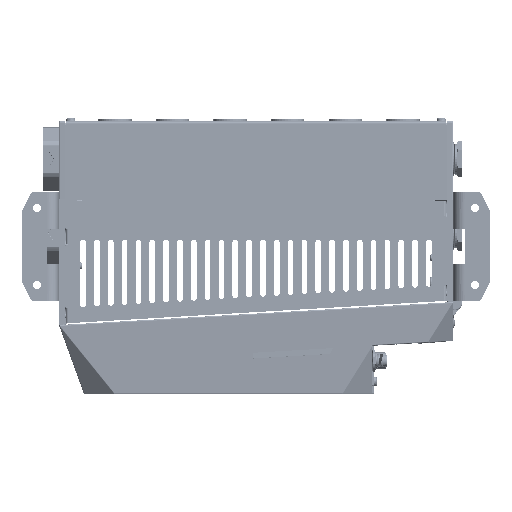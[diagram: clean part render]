
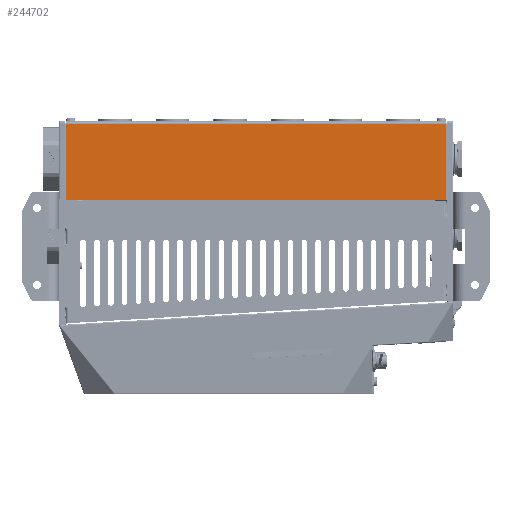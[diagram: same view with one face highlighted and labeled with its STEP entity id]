
A CAD part, left-side view. The second image highlights one B-rep face of the part: STEP entity #244702.
In plain terms, the highlighted planar face has unit normal (-1, 0, 0) as drawn and (0, -1, 0) by its records, which use the part's own axes.
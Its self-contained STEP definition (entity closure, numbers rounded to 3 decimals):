
#5823 = VECTOR ( 'NONE', #337961, 1000. ) ;
#9311 = DIRECTION ( 'NONE',  ( 0., -1., 0. ) ) ;
#9653 = ORIENTED_EDGE ( 'NONE', *, *, #179413, .T. ) ;
#12513 = VECTOR ( 'NONE', #163324, 1000. ) ;
#17559 = VERTEX_POINT ( 'NONE', #146395 ) ;
#28010 = LINE ( 'NONE', #107189, #112052 ) ;
#36679 = CARTESIAN_POINT ( 'NONE',  ( -68., -84., 164. ) ) ;
#45472 = CARTESIAN_POINT ( 'NONE',  ( -2., -84., 165. ) ) ;
#46529 = EDGE_CURVE ( 'NONE', #354419, #187023, #310218, .T. ) ;
#67919 = CARTESIAN_POINT ( 'NONE',  ( -67., -84., -164. ) ) ;
#71530 = DIRECTION ( 'NONE',  ( 1., 0., 0. ) ) ;
#71918 = DIRECTION ( 'NONE',  ( 1., 0., 0. ) ) ;
#72330 = EDGE_LOOP ( 'NONE', ( #331770, #208808, #198253, #358938, #9653, #360989 ) ) ;
#75608 = EDGE_CURVE ( 'NONE', #347763, #188427, #133296, .T. ) ;
#103339 = VECTOR ( 'NONE', #205762, 1000. ) ;
#107189 = CARTESIAN_POINT ( 'NONE',  ( -68., -84., 165. ) ) ;
#109742 = AXIS2_PLACEMENT_3D ( 'NONE', #127243, #189687, #71918 ) ;
#112052 = VECTOR ( 'NONE', #302071, 1000. ) ;
#117233 = VERTEX_POINT ( 'NONE', #45472 ) ;
#121245 = LINE ( 'NONE', #233491, #103339 ) ;
#127243 = CARTESIAN_POINT ( 'NONE',  ( -67., -84., 164. ) ) ;
#133296 = CIRCLE ( 'NONE', #109742, 1. ) ;
#133937 = LINE ( 'NONE', #246228, #12513 ) ;
#138098 = EDGE_CURVE ( 'NONE', #17559, #187023, #306733, .T. ) ;
#146395 = CARTESIAN_POINT ( 'NONE',  ( -2., -84., -165. ) ) ;
#163324 = DIRECTION ( 'NONE',  ( 0., 0., -1. ) ) ;
#171278 = DIRECTION ( 'NONE',  ( 0., -1., 0. ) ) ;
#179413 = EDGE_CURVE ( 'NONE', #117233, #347763, #121245, .T. ) ;
#187023 = VERTEX_POINT ( 'NONE', #255373 ) ;
#188427 = VERTEX_POINT ( 'NONE', #36679 ) ;
#189687 = DIRECTION ( 'NONE',  ( 0., -1., 0. ) ) ;
#197153 = PLANE ( 'NONE',  #293143 ) ;
#198253 = ORIENTED_EDGE ( 'NONE', *, *, #138098, .F. ) ;
#205762 = DIRECTION ( 'NONE',  ( -1., 0., 0. ) ) ;
#208808 = ORIENTED_EDGE ( 'NONE', *, *, #46529, .T. ) ;
#232092 = FACE_OUTER_BOUND ( 'NONE', #72330, .T. ) ;
#233491 = CARTESIAN_POINT ( 'NONE',  ( 0., -84., 165. ) ) ;
#239792 = AXIS2_PLACEMENT_3D ( 'NONE', #67919, #9311, #71530 ) ;
#244702 = ADVANCED_FACE ( 'NONE', ( #232092 ), #197153, .T. ) ;
#246228 = CARTESIAN_POINT ( 'NONE',  ( -2., -84., 165. ) ) ;
#254240 = DIRECTION ( 'NONE',  ( 1., 0., 0. ) ) ;
#255373 = CARTESIAN_POINT ( 'NONE',  ( -67., -84., -165. ) ) ;
#261112 = CARTESIAN_POINT ( 'NONE',  ( -67., -84., 165. ) ) ;
#264541 = EDGE_CURVE ( 'NONE', #117233, #17559, #133937, .T. ) ;
#280847 = EDGE_CURVE ( 'NONE', #188427, #354419, #28010, .T. ) ;
#293143 = AXIS2_PLACEMENT_3D ( 'NONE', #344114, #171278, #254240 ) ;
#302071 = DIRECTION ( 'NONE',  ( 0., 0., -1. ) ) ;
#306733 = LINE ( 'NONE', #336144, #5823 ) ;
#310218 = CIRCLE ( 'NONE', #239792, 1. ) ;
#322273 = CARTESIAN_POINT ( 'NONE',  ( -68., -84., -164. ) ) ;
#331770 = ORIENTED_EDGE ( 'NONE', *, *, #280847, .T. ) ;
#336144 = CARTESIAN_POINT ( 'NONE',  ( 0., -84., -165. ) ) ;
#337961 = DIRECTION ( 'NONE',  ( -1., 0., 0. ) ) ;
#344114 = CARTESIAN_POINT ( 'NONE',  ( 0., -84., 165. ) ) ;
#347763 = VERTEX_POINT ( 'NONE', #261112 ) ;
#354419 = VERTEX_POINT ( 'NONE', #322273 ) ;
#358938 = ORIENTED_EDGE ( 'NONE', *, *, #264541, .F. ) ;
#360989 = ORIENTED_EDGE ( 'NONE', *, *, #75608, .T. ) ;
